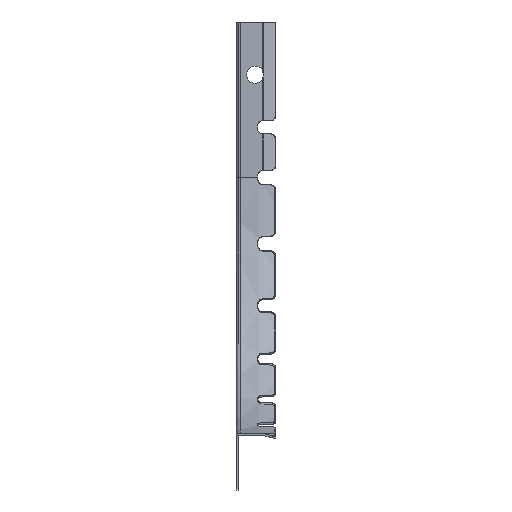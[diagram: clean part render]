
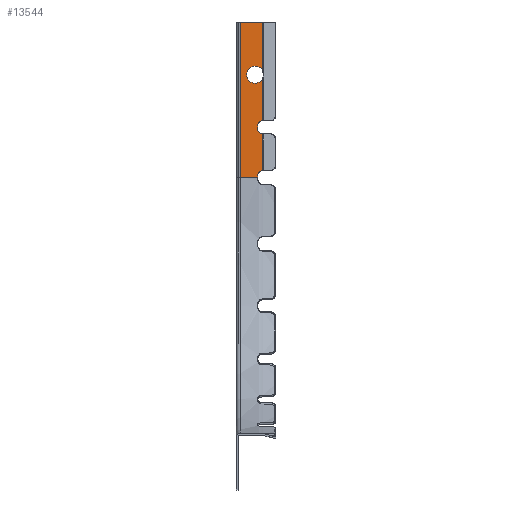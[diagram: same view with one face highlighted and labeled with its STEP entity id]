
A CAD part, left-side view. The second image highlights one B-rep face of the part: STEP entity #13544.
In plain terms, the highlighted planar face has unit normal (-1, 0, 0).
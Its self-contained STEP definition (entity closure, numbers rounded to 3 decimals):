
#385 = PLANE ( 'NONE',  #12296 ) ;
#461 = VECTOR ( 'NONE', #3290, 1000. ) ;
#473 = CARTESIAN_POINT ( 'NONE',  ( -75.7, 0., 232. ) ) ;
#670 = CARTESIAN_POINT ( 'NONE',  ( -75.7, -0.8, 232. ) ) ;
#1185 = EDGE_CURVE ( 'NONE', #13349, #17049, #10915, .T. ) ;
#1477 = DIRECTION ( 'NONE',  ( 0., -1., 0. ) ) ;
#1556 = CARTESIAN_POINT ( 'NONE',  ( -75.7, -9.195, 173.01 ) ) ;
#1627 = DIRECTION ( 'NONE',  ( 1., 0., 0. ) ) ;
#1701 = DIRECTION ( 'NONE',  ( 1., 0., 0. ) ) ;
#1886 = VERTEX_POINT ( 'NONE', #15876 ) ;
#1911 = AXIS2_PLACEMENT_3D ( 'NONE', #9569, #6608, #14896 ) ;
#1970 = CARTESIAN_POINT ( 'NONE',  ( -75.7, -7.445, 191.5 ) ) ;
#1972 = VECTOR ( 'NONE', #15057, 1000. ) ;
#2293 = LINE ( 'NONE', #14746, #13168 ) ;
#2378 = CARTESIAN_POINT ( 'NONE',  ( -75.7, -9.195, 173.01 ) ) ;
#2411 = ORIENTED_EDGE ( 'NONE', *, *, #4689, .T. ) ;
#2463 = AXIS2_PLACEMENT_3D ( 'NONE', #11217, #1627, #7159 ) ;
#2526 = CIRCLE ( 'NONE', #4253, 3.25 ) ;
#2876 = ORIENTED_EDGE ( 'NONE', *, *, #13377, .T. ) ;
#2918 = VERTEX_POINT ( 'NONE', #10636 ) ;
#3081 = DIRECTION ( 'NONE',  ( 0., 0., 1. ) ) ;
#3145 = VERTEX_POINT ( 'NONE', #16474 ) ;
#3260 = DIRECTION ( 'NONE',  ( 1., 0., 0. ) ) ;
#3290 = DIRECTION ( 'NONE',  ( 0., 0., 1. ) ) ;
#3382 = DIRECTION ( 'NONE',  ( 0., 1., 0. ) ) ;
#3384 = ORIENTED_EDGE ( 'NONE', *, *, #14829, .T. ) ;
#3624 = AXIS2_PLACEMENT_3D ( 'NONE', #9756, #1701, #9568 ) ;
#4129 = VERTEX_POINT ( 'NONE', #6307 ) ;
#4253 = AXIS2_PLACEMENT_3D ( 'NONE', #15450, #3260, #3081 ) ;
#4487 = VECTOR ( 'NONE', #5866, 1000. ) ;
#4689 = EDGE_CURVE ( 'NONE', #1886, #13721, #10833, .T. ) ;
#4694 = CARTESIAN_POINT ( 'NONE',  ( -75.7, -9.195, 173.01 ) ) ;
#4706 = EDGE_CURVE ( 'NONE', #7010, #11144, #9953, .T. ) ;
#4773 = AXIS2_PLACEMENT_3D ( 'NONE', #5152, #10835, #5407 ) ;
#4853 = ORIENTED_EDGE ( 'NONE', *, *, #10429, .T. ) ;
#5056 = CARTESIAN_POINT ( 'NONE',  ( -75.7, -7.445, 173.51 ) ) ;
#5059 = EDGE_CURVE ( 'NONE', #17068, #13349, #9385, .T. ) ;
#5077 = CARTESIAN_POINT ( 'NONE',  ( -75.7, -7.445, 170.51 ) ) ;
#5089 = DIRECTION ( 'NONE',  ( 0., 0., 1. ) ) ;
#5149 = VERTEX_POINT ( 'NONE', #17687 ) ;
#5152 = CARTESIAN_POINT ( 'NONE',  ( -75.7, -9.445, 191.5 ) ) ;
#5168 = ORIENTED_EDGE ( 'NONE', *, *, #5059, .T. ) ;
#5383 = VECTOR ( 'NONE', #7082, 1000. ) ;
#5407 = DIRECTION ( 'NONE',  ( 0., 1., 0. ) ) ;
#5702 = DIRECTION ( 'NONE',  ( 0., 0., 1. ) ) ;
#5866 = DIRECTION ( 'NONE',  ( 0., 0., 1. ) ) ;
#5915 = AXIS2_PLACEMENT_3D ( 'NONE', #15547, #7058, #5702 ) ;
#6036 = EDGE_CURVE ( 'NONE', #13721, #15998, #6047, .T. ) ;
#6047 = LINE ( 'NONE', #4694, #4487 ) ;
#6051 = ORIENTED_EDGE ( 'NONE', *, *, #15819, .F. ) ;
#6307 = CARTESIAN_POINT ( 'NONE',  ( -75.7, -9.195, 210.267 ) ) ;
#6608 = DIRECTION ( 'NONE',  ( 1., 0., 0. ) ) ;
#6821 = VECTOR ( 'NONE', #1477, 1000. ) ;
#6835 = EDGE_LOOP ( 'NONE', ( #16771, #3384, #2411, #7220, #6051, #7053, #7503, #8393, #9152, #10625, #5168, #16935, #4853, #2876 ) ) ;
#6918 = LINE ( 'NONE', #12317, #6821 ) ;
#7010 = VERTEX_POINT ( 'NONE', #5056 ) ;
#7053 = ORIENTED_EDGE ( 'NONE', *, *, #12500, .F. ) ;
#7058 = DIRECTION ( 'NONE',  ( 1., 0., 0. ) ) ;
#7082 = DIRECTION ( 'NONE',  ( 0., 0., 1. ) ) ;
#7159 = DIRECTION ( 'NONE',  ( 0., 1., 0. ) ) ;
#7220 = ORIENTED_EDGE ( 'NONE', *, *, #6036, .T. ) ;
#7270 = LINE ( 'NONE', #1556, #5383 ) ;
#7503 = ORIENTED_EDGE ( 'NONE', *, *, #17298, .F. ) ;
#8071 = CARTESIAN_POINT ( 'NONE',  ( -75.7, -9.195, 232. ) ) ;
#8393 = ORIENTED_EDGE ( 'NONE', *, *, #8685, .T. ) ;
#8655 = CARTESIAN_POINT ( 'NONE',  ( -75.7, -9.195, 175.494 ) ) ;
#8685 = EDGE_CURVE ( 'NONE', #15315, #7010, #10605, .T. ) ;
#8805 = CARTESIAN_POINT ( 'NONE',  ( -75.7, -0.8, 232. ) ) ;
#8811 = VECTOR ( 'NONE', #5089, 1000. ) ;
#9102 = CARTESIAN_POINT ( 'NONE',  ( -75.7, -7.445, 173.01 ) ) ;
#9152 = ORIENTED_EDGE ( 'NONE', *, *, #4706, .T. ) ;
#9312 = EDGE_CURVE ( 'NONE', #11144, #17068, #16200, .T. ) ;
#9385 = CIRCLE ( 'NONE', #4773, 2. ) ;
#9568 = DIRECTION ( 'NONE',  ( 0., 1., 0. ) ) ;
#9569 = CARTESIAN_POINT ( 'NONE',  ( -75.7, -6.445, 212. ) ) ;
#9756 = CARTESIAN_POINT ( 'NONE',  ( -75.7, -9.445, 192.5 ) ) ;
#9953 = CIRCLE ( 'NONE', #2463, 2. ) ;
#9981 = LINE ( 'NONE', #8805, #461 ) ;
#10429 = EDGE_CURVE ( 'NONE', #17049, #3145, #11408, .T. ) ;
#10605 = LINE ( 'NONE', #5077, #12539 ) ;
#10611 = CARTESIAN_POINT ( 'NONE',  ( -75.7, -9.195, 213.733 ) ) ;
#10625 = ORIENTED_EDGE ( 'NONE', *, *, #9312, .T. ) ;
#10636 = CARTESIAN_POINT ( 'NONE',  ( -75.7, -0.8, 173.01 ) ) ;
#10833 = CIRCLE ( 'NONE', #5915, 3.25 ) ;
#10835 = DIRECTION ( 'NONE',  ( 1., 0., 0. ) ) ;
#10915 = LINE ( 'NONE', #12344, #1972 ) ;
#11144 = VERTEX_POINT ( 'NONE', #8655 ) ;
#11217 = CARTESIAN_POINT ( 'NONE',  ( -75.7, -9.445, 173.51 ) ) ;
#11408 = CIRCLE ( 'NONE', #3624, 2. ) ;
#11411 = DIRECTION ( 'NONE',  ( 1., 0., 0. ) ) ;
#11719 = CIRCLE ( 'NONE', #1911, 3.25 ) ;
#11759 = EDGE_CURVE ( 'NONE', #4129, #5149, #11719, .T. ) ;
#12296 = AXIS2_PLACEMENT_3D ( 'NONE', #473, #11411, #17008 ) ;
#12317 = CARTESIAN_POINT ( 'NONE',  ( -75.7, -9.3, 232. ) ) ;
#12344 = CARTESIAN_POINT ( 'NONE',  ( -75.7, -7.445, 189.5 ) ) ;
#12500 = EDGE_CURVE ( 'NONE', #2918, #15609, #9981, .T. ) ;
#12539 = VECTOR ( 'NONE', #14998, 1000. ) ;
#13168 = VECTOR ( 'NONE', #3382, 1000. ) ;
#13349 = VERTEX_POINT ( 'NONE', #1970 ) ;
#13377 = EDGE_CURVE ( 'NONE', #3145, #4129, #7270, .T. ) ;
#13544 = ADVANCED_FACE ( 'NONE', ( #13933 ), #385, .F. ) ;
#13721 = VERTEX_POINT ( 'NONE', #10611 ) ;
#13933 = FACE_OUTER_BOUND ( 'NONE', #6835, .T. ) ;
#14590 = CARTESIAN_POINT ( 'NONE',  ( -75.7, -7.445, 192.5 ) ) ;
#14746 = CARTESIAN_POINT ( 'NONE',  ( -75.7, 0., 173.01 ) ) ;
#14829 = EDGE_CURVE ( 'NONE', #5149, #1886, #2526, .T. ) ;
#14896 = DIRECTION ( 'NONE',  ( 0., 0., 1. ) ) ;
#14998 = DIRECTION ( 'NONE',  ( 0., 0., 1. ) ) ;
#15057 = DIRECTION ( 'NONE',  ( 0., 0., 1. ) ) ;
#15315 = VERTEX_POINT ( 'NONE', #9102 ) ;
#15450 = CARTESIAN_POINT ( 'NONE',  ( -75.7, -6.445, 212. ) ) ;
#15547 = CARTESIAN_POINT ( 'NONE',  ( -75.7, -6.445, 212. ) ) ;
#15609 = VERTEX_POINT ( 'NONE', #670 ) ;
#15819 = EDGE_CURVE ( 'NONE', #15609, #15998, #6918, .T. ) ;
#15876 = CARTESIAN_POINT ( 'NONE',  ( -75.7, -6.445, 215.25 ) ) ;
#15998 = VERTEX_POINT ( 'NONE', #8071 ) ;
#16200 = LINE ( 'NONE', #2378, #8811 ) ;
#16474 = CARTESIAN_POINT ( 'NONE',  ( -75.7, -9.195, 194.484 ) ) ;
#16771 = ORIENTED_EDGE ( 'NONE', *, *, #11759, .T. ) ;
#16935 = ORIENTED_EDGE ( 'NONE', *, *, #1185, .T. ) ;
#17008 = DIRECTION ( 'NONE',  ( 0., -1., 0. ) ) ;
#17049 = VERTEX_POINT ( 'NONE', #14590 ) ;
#17068 = VERTEX_POINT ( 'NONE', #17573 ) ;
#17298 = EDGE_CURVE ( 'NONE', #15315, #2918, #2293, .T. ) ;
#17573 = CARTESIAN_POINT ( 'NONE',  ( -75.7, -9.195, 189.516 ) ) ;
#17687 = CARTESIAN_POINT ( 'NONE',  ( -75.7, -6.445, 208.75 ) ) ;
